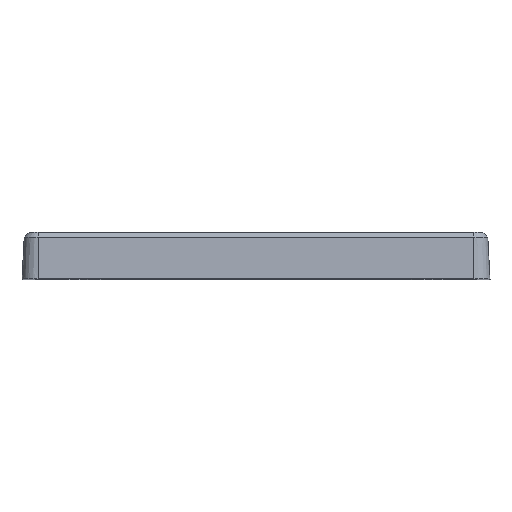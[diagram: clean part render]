
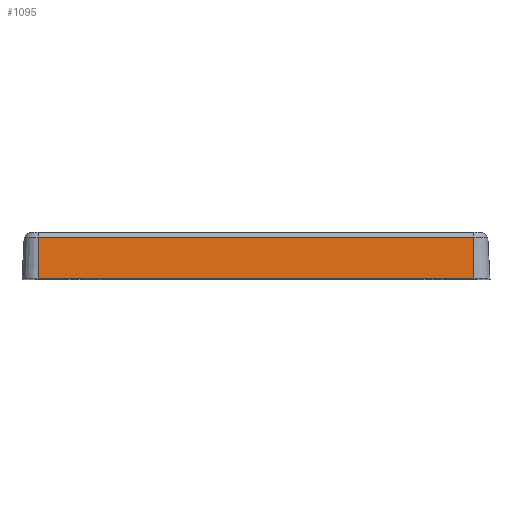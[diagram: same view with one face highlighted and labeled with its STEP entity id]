
A CAD part, top view. The second image highlights one B-rep face of the part: STEP entity #1095.
In plain terms, the highlighted planar face has unit normal (0, 0.052, 0.999).
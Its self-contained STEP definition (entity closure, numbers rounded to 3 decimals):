
#1067 = VERTEX_POINT ( 'NONE', #2154 ) ;
#1086 = EDGE_CURVE ( 'NONE', #1117, #1067, #2059, .T. ) ;
#1095 = ADVANCED_FACE ( 'NONE', ( #2079 ), #2078, .T. ) ;
#1096 = ORIENTED_EDGE ( 'NONE', *, *, #1097, .F. ) ;
#1097 = EDGE_CURVE ( 'NONE', #1117, #1155, #2073, .T. ) ;
#1098 = VERTEX_POINT ( 'NONE', #2098 ) ;
#1114 = ORIENTED_EDGE ( 'NONE', *, *, #1156, .T. ) ;
#1117 = VERTEX_POINT ( 'NONE', #2165 ) ;
#1118 = ORIENTED_EDGE ( 'NONE', *, *, #1086, .T. ) ;
#1130 = EDGE_LOOP ( 'NONE', ( #1096, #1118, #1114, #1131 ) ) ;
#1131 = ORIENTED_EDGE ( 'NONE', *, *, #1132, .T. ) ;
#1132 = EDGE_CURVE ( 'NONE', #1098, #1155, #2221, .T. ) ;
#1155 = VERTEX_POINT ( 'NONE', #2252 ) ;
#1156 = EDGE_CURVE ( 'NONE', #1067, #1098, #2251, .T. ) ;
#2056 = DIRECTION ( 'NONE',  ( -1., 0., 0. ) ) ;
#2057 = VECTOR ( 'NONE', #2056, 1000. ) ;
#2058 = CARTESIAN_POINT ( 'NONE',  ( -46.5, 8.945, 49.531 ) ) ;
#2059 = LINE ( 'NONE', #2058, #2057 ) ;
#2070 = DIRECTION ( 'NONE',  ( 0., -0.999, 0.052 ) ) ;
#2071 = VECTOR ( 'NONE', #2070, 1000. ) ;
#2072 = CARTESIAN_POINT ( 'NONE',  ( 46.5, 0., 50. ) ) ;
#2073 = LINE ( 'NONE', #2072, #2071 ) ;
#2074 = DIRECTION ( 'NONE',  ( 0., -0.999, 0.052 ) ) ;
#2075 = DIRECTION ( 'NONE',  ( 0., 0.052, 0.999 ) ) ;
#2076 = CARTESIAN_POINT ( 'NONE',  ( -46.5, 0., 50. ) ) ;
#2077 = AXIS2_PLACEMENT_3D ( 'NONE', #2076, #2075, #2074 ) ;
#2078 = PLANE ( 'NONE',  #2077 ) ;
#2079 = FACE_OUTER_BOUND ( 'NONE', #1130, .T. ) ;
#2098 = CARTESIAN_POINT ( 'NONE',  ( -46.5, 0., 50. ) ) ;
#2154 = CARTESIAN_POINT ( 'NONE',  ( -46.5, 8.945, 49.531 ) ) ;
#2165 = CARTESIAN_POINT ( 'NONE',  ( 46.5, 8.945, 49.531 ) ) ;
#2205 = DIRECTION ( 'NONE',  ( 0., -0.999, 0.052 ) ) ;
#2206 = VECTOR ( 'NONE', #2205, 1000. ) ;
#2207 = CARTESIAN_POINT ( 'NONE',  ( -46.5, 0., 50. ) ) ;
#2218 = DIRECTION ( 'NONE',  ( 1., 0., 0. ) ) ;
#2219 = VECTOR ( 'NONE', #2218, 1000. ) ;
#2220 = CARTESIAN_POINT ( 'NONE',  ( -46.5, 0., 50. ) ) ;
#2221 = LINE ( 'NONE', #2220, #2219 ) ;
#2251 = LINE ( 'NONE', #2207, #2206 ) ;
#2252 = CARTESIAN_POINT ( 'NONE',  ( 46.5, 0., 50. ) ) ;
